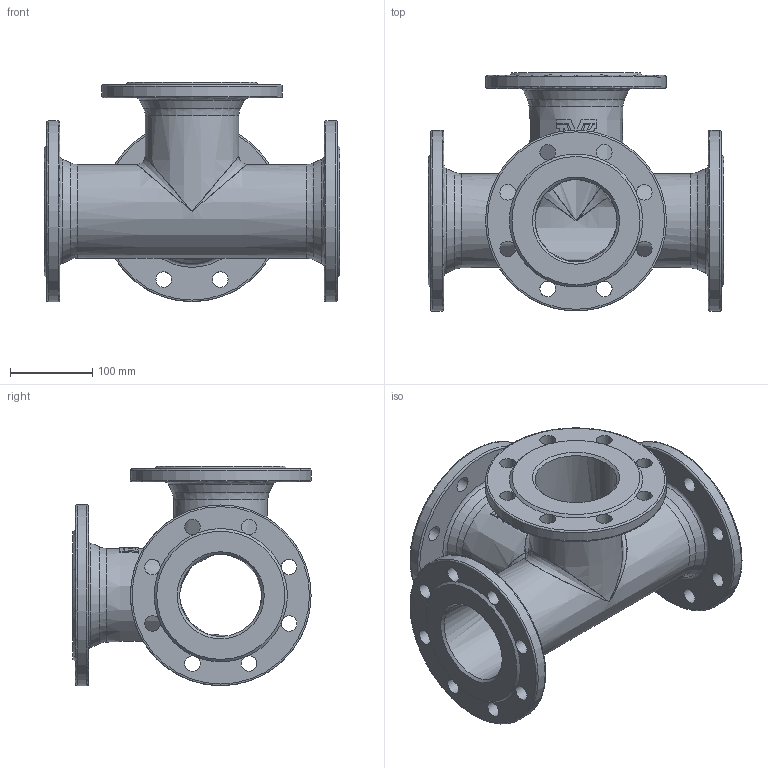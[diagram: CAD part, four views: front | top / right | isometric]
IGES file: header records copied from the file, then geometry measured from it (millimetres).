
Start section: SolidWorks IGES file using analytic representation for surfaces
Global section: file name: \\avksan2\techshare\PBM outline export from Enovia\O_712_1110_DN100_AA0.igs; native system: SolidWorks 2012; preprocessor: SolidWorks 2012; author: pbm; date: 171013.090135; units: millimetre
Bounding box: 360 x 290 x 267 mm (x, y, z)
Surface area: 619039.4 mm2 (no closed solid volume)
Topology: 0 solids, 0 shells, 181 faces, 1784 edges, 1702 vertices
Faces by surface type: revolution 124, bspline 57
